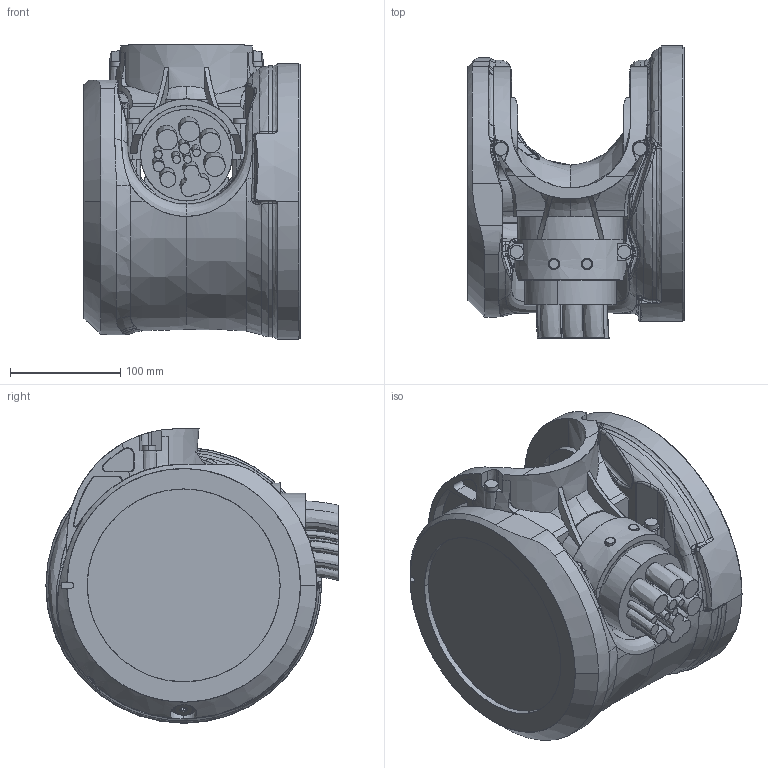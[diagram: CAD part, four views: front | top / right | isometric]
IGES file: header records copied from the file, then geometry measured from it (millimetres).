
Start section: SolidWorks IGES file using analytic representation for surfaces
Global section: file name: C:\Users\SEJAOLS6\OneDrive - ABB\Documents\SAP\7710\7710_Lightweight_models\IRB7710-LID-MH_280kg-350_OC_01_SW_J\IRB7710-LID-MH_280kg-350_OC_01_IGES_J\IRB77X0_All-350_OC_00_LINK06_CABLE.igs; native system: SolidWorks 2024; preprocessor: SolidWorks 2024; author: SEJAOLS6; date: 260126.160039; units: millimetre
Bounding box: 196 x 265.09 x 267 mm (x, y, z)
Surface area: 418281 mm2 (no closed solid volume)
Topology: 0 solids, 0 shells, 862 faces, 11700 edges, 11690 vertices
Faces by surface type: bspline 541, revolution 321
